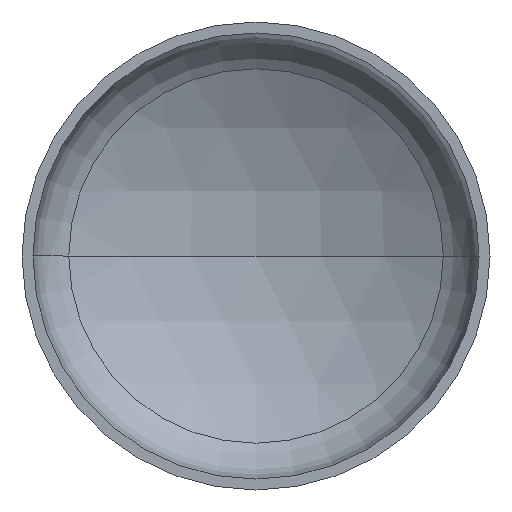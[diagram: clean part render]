
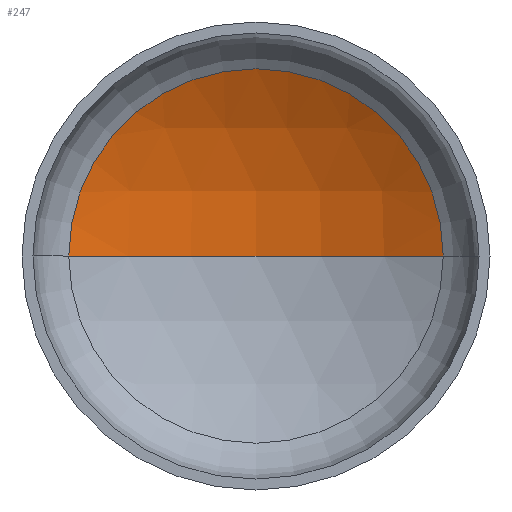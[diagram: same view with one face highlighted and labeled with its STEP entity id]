
A CAD part, front view. The second image highlights one B-rep face of the part: STEP entity #247.
In plain terms, the highlighted spherical face has radius 2400 mm.
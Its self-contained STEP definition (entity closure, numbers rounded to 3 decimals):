
#1 = VERTEX_POINT ( 'NONE', #248 ) ;
#8 = AXIS2_PLACEMENT_3D ( 'NONE', #85, #138, #140 ) ;
#12 = AXIS2_PLACEMENT_3D ( 'NONE', #188, #405, #310 ) ;
#25 = EDGE_LOOP ( 'NONE', ( #94, #44, #34 ) ) ;
#33 = AXIS2_PLACEMENT_3D ( 'NONE', #251, #205, #259 ) ;
#34 = ORIENTED_EDGE ( 'NONE', *, *, #104, .T. ) ;
#44 = ORIENTED_EDGE ( 'NONE', *, *, #359, .T. ) ;
#63 = VERTEX_POINT ( 'NONE', #271 ) ;
#64 = AXIS2_PLACEMENT_3D ( 'NONE', #210, #207, #209 ) ;
#85 = CARTESIAN_POINT ( 'NONE',  ( 0., -1560.089, 0. ) ) ;
#94 = ORIENTED_EDGE ( 'NONE', *, *, #365, .F. ) ;
#104 = EDGE_CURVE ( 'NONE', #63, #110, #398, .T. ) ;
#110 = VERTEX_POINT ( 'NONE', #277 ) ;
#138 = DIRECTION ( 'NONE',  ( 0., 0., 1. ) ) ;
#140 = DIRECTION ( 'NONE',  ( 1., 0., 0. ) ) ;
#188 = CARTESIAN_POINT ( 'NONE',  ( 0., -1560.089, 0. ) ) ;
#205 = DIRECTION ( 'NONE',  ( 0., 0., -1. ) ) ;
#207 = DIRECTION ( 'NONE',  ( 0., -1., 0. ) ) ;
#208 = FACE_OUTER_BOUND ( 'NONE', #25, .T. ) ;
#209 = DIRECTION ( 'NONE',  ( 1., 0., 0. ) ) ;
#210 = CARTESIAN_POINT ( 'NONE',  ( 0., 518.372, 0. ) ) ;
#247 = ADVANCED_FACE ( 'NONE', ( #208 ), #379, .F. ) ;
#248 = CARTESIAN_POINT ( 'NONE',  ( 0., 839.911, 0. ) ) ;
#251 = CARTESIAN_POINT ( 'NONE',  ( 0., -1560.089, 0. ) ) ;
#259 = DIRECTION ( 'NONE',  ( -1., 0., 0. ) ) ;
#271 = CARTESIAN_POINT ( 'NONE',  ( 1200., 518.372, 0. ) ) ;
#277 = CARTESIAN_POINT ( 'NONE',  ( -1200., 518.372, 0. ) ) ;
#305 = CIRCLE ( 'NONE', #8, 2400. ) ;
#310 = DIRECTION ( 'NONE',  ( -1., 0., 0. ) ) ;
#311 = CIRCLE ( 'NONE', #12, 2400. ) ;
#359 = EDGE_CURVE ( 'NONE', #1, #63, #311, .T. ) ;
#365 = EDGE_CURVE ( 'NONE', #1, #110, #305, .T. ) ;
#379 = SPHERICAL_SURFACE ( 'NONE', #33, 2400. ) ;
#398 = CIRCLE ( 'NONE', #64, 1200. ) ;
#405 = DIRECTION ( 'NONE',  ( 0., 0., -1. ) ) ;
